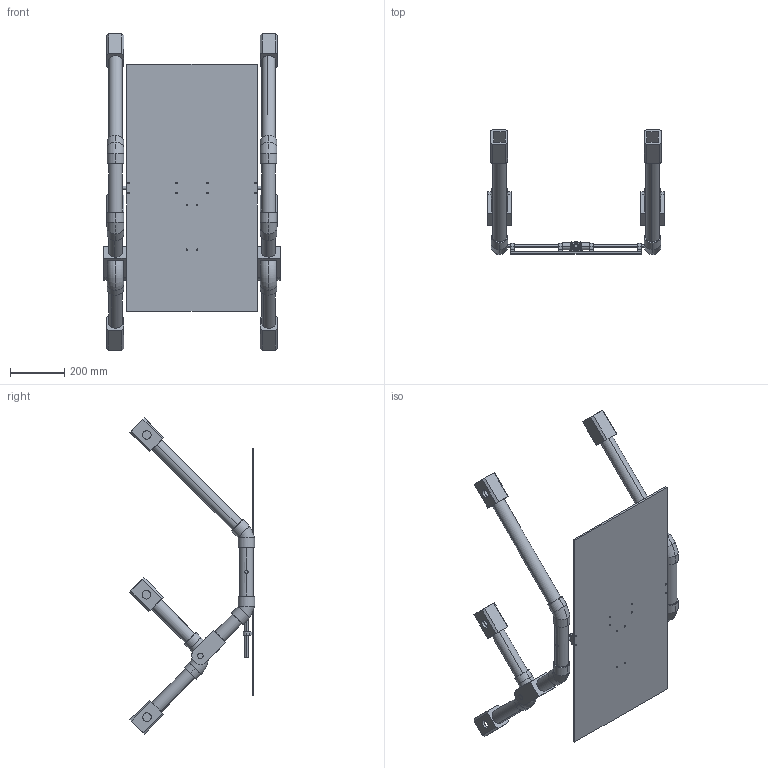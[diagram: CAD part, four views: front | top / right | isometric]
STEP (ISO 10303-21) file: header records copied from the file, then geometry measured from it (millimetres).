
FILE_DESCRIPTION (( 'STEP AP214' ), '1' );
FILE_NAME ('Rocker Bogiev2.STEP', '2025-11-11T16:20:15', ( '' ), ( '' ), 'SwSTEP 2.0', 'SolidWorks 2025', '' );
FILE_SCHEMA (( 'AUTOMOTIVE_DESIGN' ));
Length unit declared in the file: inch
Products named in the file (14): steady bearing v1; Tube L21.5OD2ID1.5; Tube Connector 3; Motor Housing; Tube Connector 45 degrees; Tube L16OD2ID1.5Hole; ShaftOD12mmL300mm; Tube L16OD2ID1.5; Pin1; Rocker Bogiev2; Rocker Bogie Base; Joint1; straight bevel gear_ai_Inch - Straight bevel gear 12DP 16GT 16PT 20PA 0.5FW ---16O1H2.0MD0.5N; Tube L5OD2ID1.5
Assembly tree (39 placements, depth 2):
  Rocker Bogiev2
    straight bevel gear_ai_Inch - Straight bevel gear 12DP 16GT 16PT 20PA 0.5FW ---16O1H2.0MD0.5N  x3
    Rocker Bogie Base
    steady bearing v1  x6
    ShaftOD12mmL300mm  x3
    Tube L16OD2ID1.5Hole  x2
    Tube Connector 45 degrees  x4
    Tube L5OD2ID1.5  x2
    Joint1  x2
    Pin1  x2
    Tube L21.5OD2ID1.5  x2
    Tube L16OD2ID1.5  x4
    Motor Housing  x6
    Tube Connector 3  x2
Bounding box: 653.6 x 464.13 x 1171.17 mm (x, y, z)
Volume: 8518241.5 mm3; surface area: 2447083.7 mm2
Topology: 39 solids, 39 shells, 825 faces, 2138 edges, 1392 vertices
Faces by surface type: bspline 240, cylinder 232, plane 225, cone 108, torus 20
Entity records: 11443 total; most frequent: CARTESIAN_POINT 4218, ORIENTED_EDGE 1476, DIRECTION 1252, EDGE_CURVE 738, AXIS2_PLACEMENT_3D 487, VERTEX_POINT 479, EDGE_LOOP 343, ADVANCED_FACE 285
